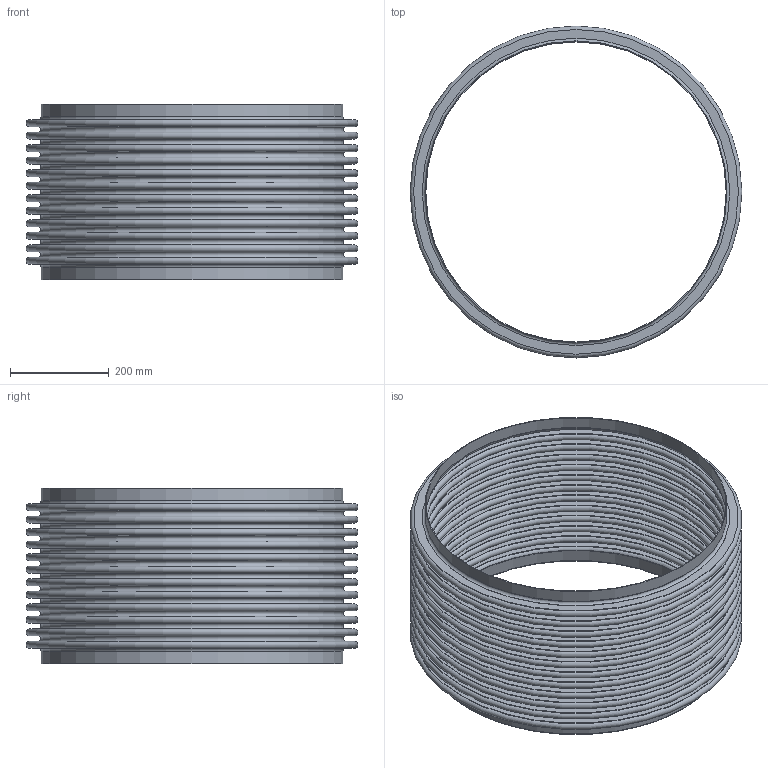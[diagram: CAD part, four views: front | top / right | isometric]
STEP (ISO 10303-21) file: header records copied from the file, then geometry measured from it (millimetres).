
FILE_DESCRIPTION(/* description */ ('STOCK BELLOWS: U.S-24-12-150L, 24.000 I.D., 26.500 O.D., 1 PLY, 16 GA (0.060 THICK), 12 CONS., 1.000 PITCH, 1.000 TANGENT. '),/* implementation_level */ '2;1');
FILE_NAME(/* name */ 'STOCK BELLOW - US-24-12-150L.stp',/* time_stamp */ '2026-07-21T13:07:50-05:00',/* author */ ('KennethB'),/* organization */ (''),/* preprocessor_version */ 'ST-DEVELOPER v20.1',/* originating_system */ 'Autodesk Inventor 2026',/* authorisation */ '');
FILE_SCHEMA (('AUTOMOTIVE_DESIGN { 1 0 10303 214 3 1 1 }'));
Length unit declared in the file: inch
Products named in the file (1): STOCK BELLOW - US-24-12-150L
Bounding box: 673.1 x 673.1 x 355.6 mm (x, y, z)
Volume: 2910385.9 mm3; surface area: 3836959.6 mm2
Topology: 3 solids, 3 shells, 108 faces, 162 edges, 109 vertices
Faces by surface type: plane 54, torus 50, cylinder 4
Full cylindrical faces by diameter (mm): 609.6 x2, 612.648 x2
Entity records: 2550 total; most frequent: DIRECTION 538, CARTESIAN_POINT 380, ORIENTED_EDGE 324, AXIS2_PLACEMENT_3D 267, EDGE_LOOP 162, EDGE_CURVE 162, CIRCLE 158, FACE_OUTER_BOUND 108
